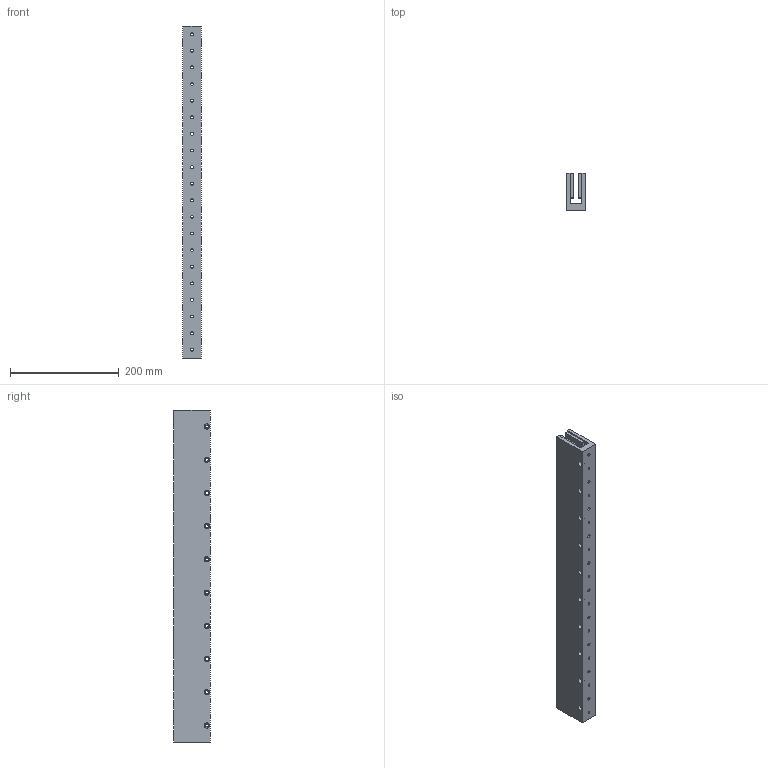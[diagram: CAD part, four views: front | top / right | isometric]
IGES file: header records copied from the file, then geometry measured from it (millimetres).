
Global section: file name: No Iges File Name specified; native system: Autodesk Inventor 2012; preprocessor: AutoDesk Inventor Iges Exporter R2012; author: je17857; date: 20120511.155311; units: inch
Bounding box: 34.29 x 67.31 x 609.35 mm (x, y, z)
Volume: 898296.5 mm3; surface area: 235624.7 mm2
Topology: 1 solids, 1 shells, 300 faces, 694 edges, 466 vertices
Faces by surface type: plane 240, revolution 60
